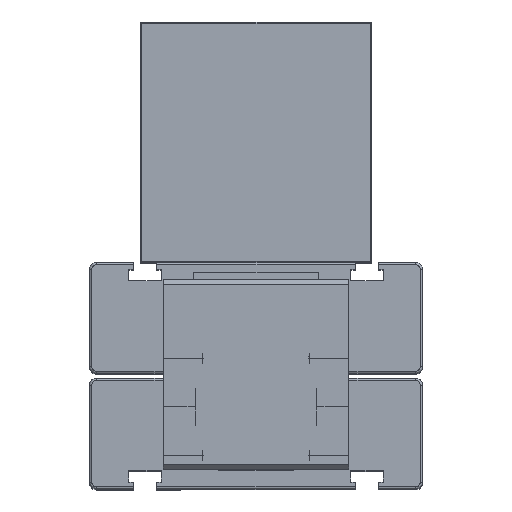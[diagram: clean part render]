
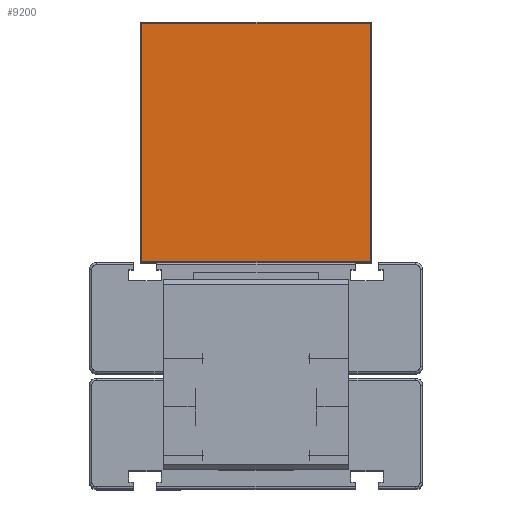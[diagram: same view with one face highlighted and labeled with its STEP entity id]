
A CAD part, top view. The second image highlights one B-rep face of the part: STEP entity #9200.
In plain terms, the highlighted planar face has unit normal (0, 0, 1).
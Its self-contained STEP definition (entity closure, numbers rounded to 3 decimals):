
#379 = EDGE_CURVE ( 'NONE', #3372, #14699, #12080, .T. ) ;
#875 = ORIENTED_EDGE ( 'NONE', *, *, #9567, .T. ) ;
#1305 = CARTESIAN_POINT ( 'NONE',  ( 50., 0.5, 90. ) ) ;
#1513 = EDGE_LOOP ( 'NONE', ( #7456, #875, #11206, #12115 ) ) ;
#1929 = CARTESIAN_POINT ( 'NONE',  ( -49.5, 0., 90. ) ) ;
#2409 = DIRECTION ( 'NONE',  ( 0., 1., 0. ) ) ;
#2536 = VECTOR ( 'NONE', #7694, 1000. ) ;
#2632 = DIRECTION ( 'NONE',  ( 1., 0., 0. ) ) ;
#2997 = LINE ( 'NONE', #8893, #2536 ) ;
#3372 = VERTEX_POINT ( 'NONE', #9081 ) ;
#4749 = VECTOR ( 'NONE', #15225, 1000. ) ;
#5759 = LINE ( 'NONE', #1929, #4749 ) ;
#6141 = EDGE_CURVE ( 'NONE', #14699, #8868, #2997, .T. ) ;
#6626 = FACE_OUTER_BOUND ( 'NONE', #1513, .T. ) ;
#7456 = ORIENTED_EDGE ( 'NONE', *, *, #6141, .T. ) ;
#7694 = DIRECTION ( 'NONE',  ( 0., 1., 0. ) ) ;
#8285 = CARTESIAN_POINT ( 'NONE',  ( 50., 0., 90. ) ) ;
#8491 = DIRECTION ( 'NONE',  ( -1., 0., 0. ) ) ;
#8699 = AXIS2_PLACEMENT_3D ( 'NONE', #8285, #12164, #2409 ) ;
#8868 = VERTEX_POINT ( 'NONE', #12348 ) ;
#8893 = CARTESIAN_POINT ( 'NONE',  ( 49.5, 104., 90. ) ) ;
#9081 = CARTESIAN_POINT ( 'NONE',  ( -49.5, 0.5, 90. ) ) ;
#9200 = ADVANCED_FACE ( 'NONE', ( #6626 ), #11451, .F. ) ;
#9567 = EDGE_CURVE ( 'NONE', #8868, #12965, #11825, .T. ) ;
#9865 = CARTESIAN_POINT ( 'NONE',  ( 49.5, 0.5, 90. ) ) ;
#10593 = EDGE_CURVE ( 'NONE', #12965, #3372, #5759, .T. ) ;
#10620 = CARTESIAN_POINT ( 'NONE',  ( 50., 103.5, 90. ) ) ;
#11206 = ORIENTED_EDGE ( 'NONE', *, *, #10593, .T. ) ;
#11348 = VECTOR ( 'NONE', #2632, 1000. ) ;
#11451 = PLANE ( 'NONE',  #8699 ) ;
#11825 = LINE ( 'NONE', #10620, #14290 ) ;
#12080 = LINE ( 'NONE', #1305, #11348 ) ;
#12115 = ORIENTED_EDGE ( 'NONE', *, *, #379, .T. ) ;
#12150 = CARTESIAN_POINT ( 'NONE',  ( -49.5, 103.5, 90. ) ) ;
#12164 = DIRECTION ( 'NONE',  ( 0., 0., -1. ) ) ;
#12348 = CARTESIAN_POINT ( 'NONE',  ( 49.5, 103.5, 90. ) ) ;
#12965 = VERTEX_POINT ( 'NONE', #12150 ) ;
#14290 = VECTOR ( 'NONE', #8491, 1000. ) ;
#14699 = VERTEX_POINT ( 'NONE', #9865 ) ;
#15225 = DIRECTION ( 'NONE',  ( 0., -1., 0. ) ) ;
